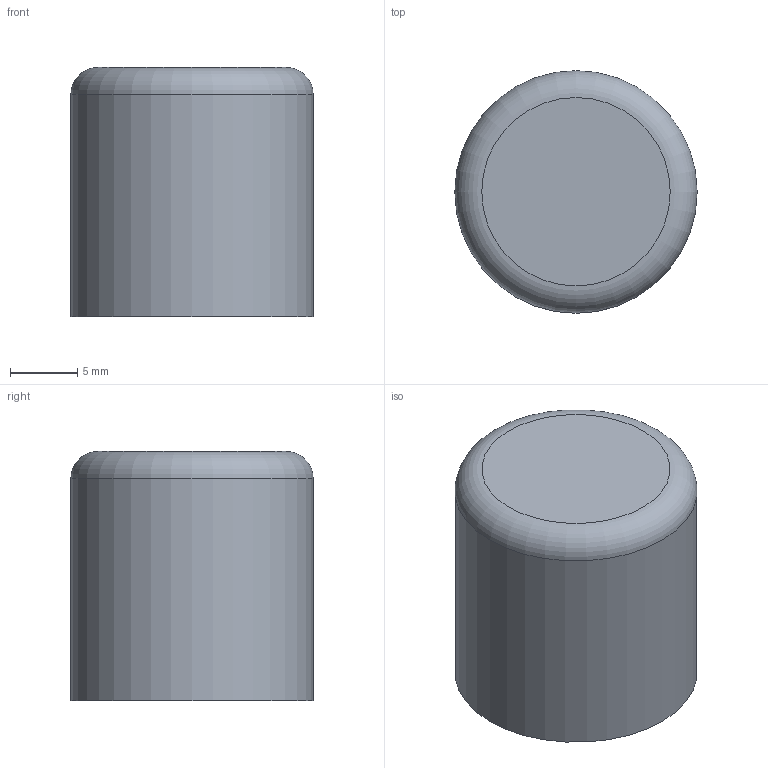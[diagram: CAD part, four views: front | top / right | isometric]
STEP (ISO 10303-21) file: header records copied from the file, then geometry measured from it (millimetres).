
FILE_DESCRIPTION(('HOOPS Exchange Step'),'2;1');
FILE_NAME('/Users/carl/Library/Containers/com.shapr3d.shapr/Data/tmp/export/temp_export','2026-01-29T18:14:06+01:00',('carl'),('Shapr3D Limited'),'HOOPS Exchange 2025.7','Shapr3D','Authorized');
FILE_SCHEMA( ('AP242_MANAGED_MODEL_BASED_3D_ENGINEERING_MIM_LF {1 0 10303 442 1 1 4}') );
Length unit declared in the file: millimetre
Products named in the file (1): Knob
Bounding box: 18 x 18 x 18.5 mm (x, y, z)
Volume: 4106.9 mm3; surface area: 1837.8 mm2
Topology: 1 solids, 1 shells, 12 faces, 25 edges, 17 vertices
Faces by surface type: cylinder 6, plane 5, torus 1
Full cylindrical faces by diameter (mm): 7.5 x1, 18 x1
Entity records: 369 total; most frequent: DIRECTION 69, CARTESIAN_POINT 56, ORIENTED_EDGE 50, AXIS2_PLACEMENT_3D 30, EDGE_CURVE 25, VERTEX_POINT 17, CIRCLE 16, EDGE_LOOP 14
